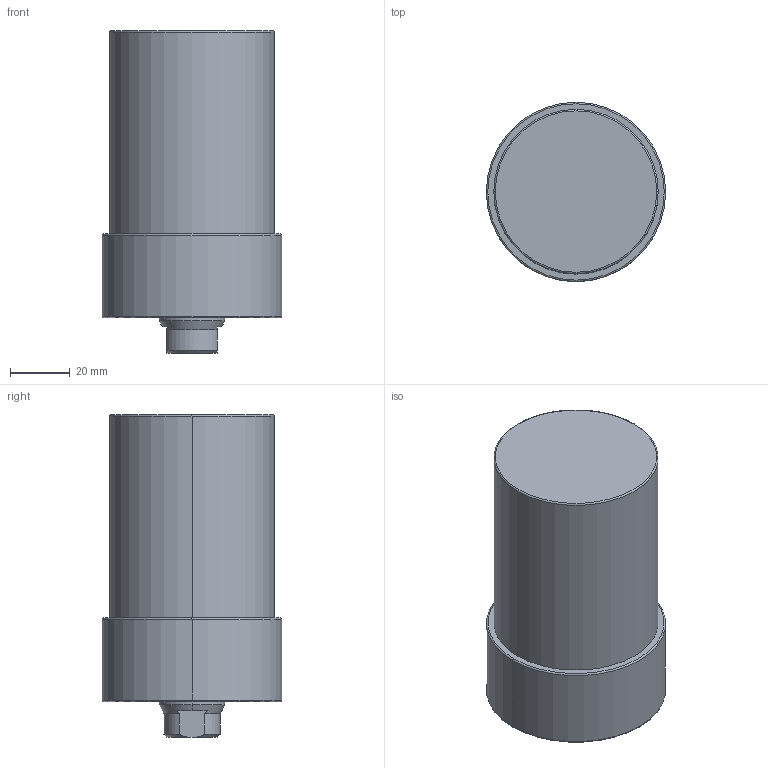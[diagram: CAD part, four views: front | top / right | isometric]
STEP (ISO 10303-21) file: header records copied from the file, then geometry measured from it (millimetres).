
FILE_DESCRIPTION (( 'STEP AP203' ), '1' );
FILE_NAME ('CLLU055-CA-065.STEP', '2017-05-12T11:08:46', ( '' ), ( '' ), 'SwSTEP 2.0', 'SolidWorks 2015', '' );
FILE_SCHEMA (( 'CONFIG_CONTROL_DESIGN' ));
Length unit declared in the file: millimetre
Products named in the file (1): CLLU055-CA-065
Bounding box: 60 x 60 x 108 mm (x, y, z)
Volume: 241057.4 mm3; surface area: 25072.2 mm2
Topology: 1 solids, 1 shells, 62 faces, 138 edges, 77 vertices
Faces by surface type: cone 24, cylinder 22, plane 10, torus 6
Entity records: 1745 total; most frequent: DIRECTION 318, CARTESIAN_POINT 308, ORIENTED_EDGE 256, AXIS2_PLACEMENT_3D 135, EDGE_CURVE 128, VERTEX_POINT 77, CIRCLE 72, EDGE_LOOP 71
